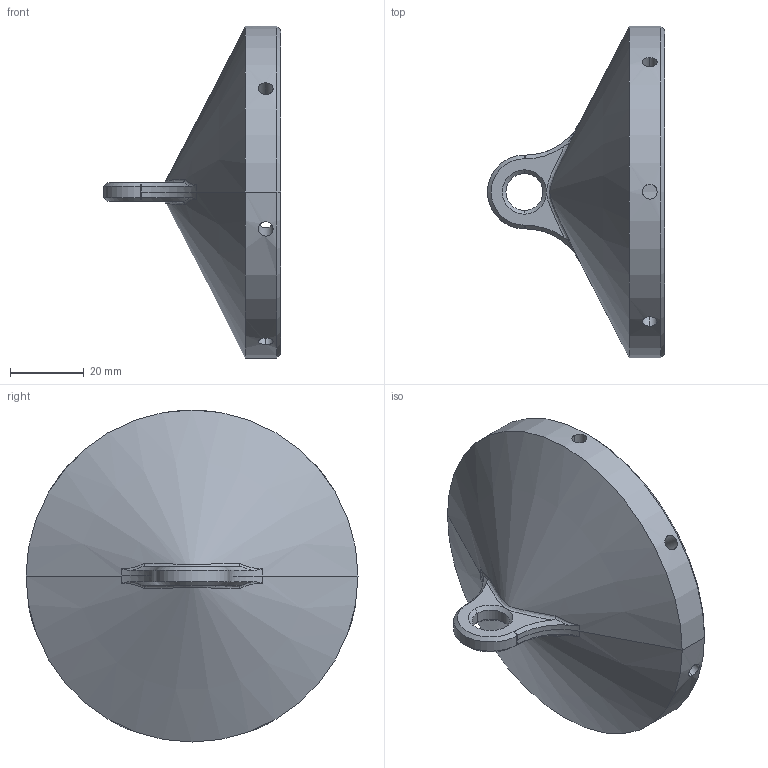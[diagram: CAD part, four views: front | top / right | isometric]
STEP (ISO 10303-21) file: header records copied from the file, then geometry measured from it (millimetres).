
FILE_DESCRIPTION((''),'2;1');
FILE_NAME('KRMITKO_VRCH','2023-12-23T10:33:31',('pavol'),(''),'CREO PARAMETRIC BY PTC INC, 2018100','CREO PARAMETRIC BY PTC INC, 2018100','');
FILE_SCHEMA(('CONFIG_CONTROL_DESIGN'));
Length unit declared in the file: millimetre
Products named in the file (1): KRMITKO_VRCH
Bounding box: 48 x 90 x 90 mm (x, y, z)
Volume: 54159.5 mm3; surface area: 19807.4 mm2
Topology: 1 solids, 1 shells, 59 faces, 148 edges, 91 vertices
Faces by surface type: cylinder 21, cone 14, bspline 14, plane 10
Entity records: 3078 total; most frequent: CARTESIAN_POINT 1776, ORIENTED_EDGE 292, DIRECTION 196, EDGE_CURVE 146, VERTEX_POINT 91, EDGE_LOOP 77, AXIS2_PLACEMENT_3D 73, B_SPLINE_CURVE_WITH_KNOTS 68
